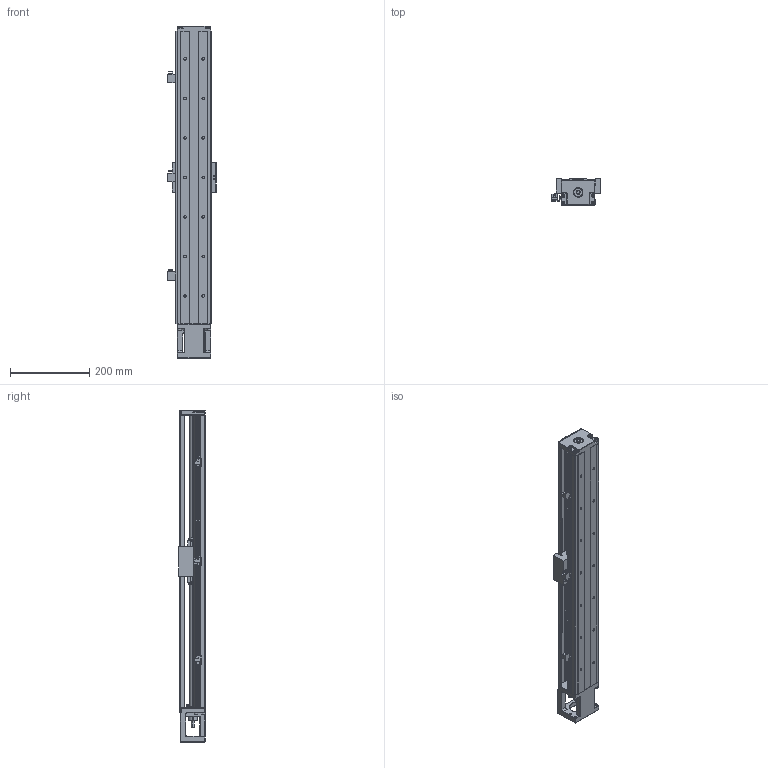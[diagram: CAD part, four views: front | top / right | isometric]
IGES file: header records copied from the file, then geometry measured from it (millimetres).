
Start section: SolidWorks IGES file using analytic representation for surfaces
Bounding box: 122.8 x 68 x 840 mm (x, y, z)
Surface area: 559635.8 mm2 (no closed solid volume)
Topology: 0 solids, 0 shells, 1636 faces, 18848 edges, 18698 vertices
Faces by surface type: bspline 936, revolution 700
